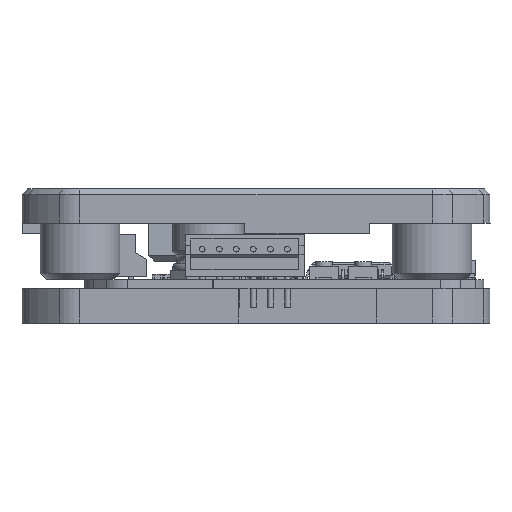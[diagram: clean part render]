
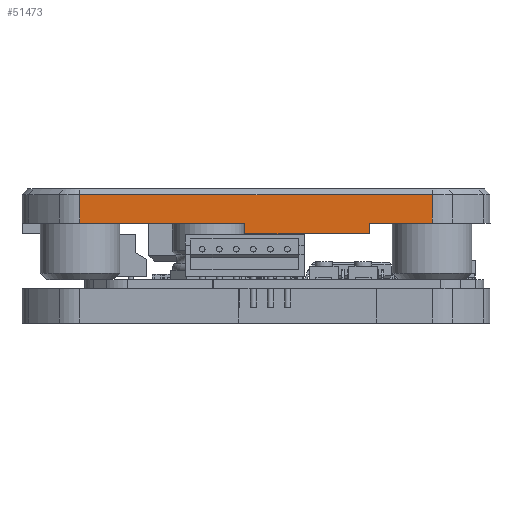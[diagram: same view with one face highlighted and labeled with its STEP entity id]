
A CAD part, left-side view. The second image highlights one B-rep face of the part: STEP entity #51473.
In plain terms, the highlighted planar face has unit normal (-1, 0, 0).
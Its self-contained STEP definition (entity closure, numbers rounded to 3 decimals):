
#7603=FACE_OUTER_BOUND('',#10592,.T.);
#10592=EDGE_LOOP('',(#46665,#46666,#46667,#46668,#46669,#46670,#46671,#46672));
#15877=LINE('',#89943,#21171);
#15885=LINE('',#89958,#21179);
#15886=LINE('',#89960,#21180);
#15890=LINE('',#89986,#21184);
#15891=LINE('',#89988,#21185);
#15909=LINE('',#90053,#21203);
#15910=LINE('',#90056,#21204);
#15911=LINE('',#90057,#21205);
#21171=VECTOR('',#70141,10.);
#21179=VECTOR('',#70153,10.);
#21180=VECTOR('',#70156,10.);
#21184=VECTOR('',#70180,10.);
#21185=VECTOR('',#70181,10.);
#21203=VECTOR('',#70243,10.);
#21204=VECTOR('',#70246,10.);
#21205=VECTOR('',#70247,10.);
#25679=VERTEX_POINT('',#89939);
#25681=VERTEX_POINT('',#89942);
#25685=VERTEX_POINT('',#89954);
#25686=VERTEX_POINT('',#89956);
#25698=VERTEX_POINT('',#89984);
#25699=VERTEX_POINT('',#89987);
#25724=VERTEX_POINT('',#90051);
#25725=VERTEX_POINT('',#90055);
#32676=EDGE_CURVE('',#25679,#25681,#15877,.T.);
#32684=EDGE_CURVE('',#25685,#25686,#15885,.T.);
#32685=EDGE_CURVE('',#25681,#25686,#15886,.T.);
#32698=EDGE_CURVE('',#25698,#25679,#15890,.T.);
#32699=EDGE_CURVE('',#25685,#25699,#15891,.T.);
#32732=EDGE_CURVE('',#25698,#25724,#15909,.T.);
#32733=EDGE_CURVE('',#25725,#25724,#15910,.T.);
#32734=EDGE_CURVE('',#25699,#25725,#15911,.T.);
#46665=ORIENTED_EDGE('',*,*,#32698,.F.);
#46666=ORIENTED_EDGE('',*,*,#32732,.T.);
#46667=ORIENTED_EDGE('',*,*,#32733,.F.);
#46668=ORIENTED_EDGE('',*,*,#32734,.F.);
#46669=ORIENTED_EDGE('',*,*,#32699,.F.);
#46670=ORIENTED_EDGE('',*,*,#32684,.T.);
#46671=ORIENTED_EDGE('',*,*,#32685,.F.);
#46672=ORIENTED_EDGE('',*,*,#32676,.F.);
#48709=PLANE('',#56427);
#51473=ADVANCED_FACE('',(#7603),#48709,.T.);
#56427=AXIS2_PLACEMENT_3D('',#90054,#70244,#70245);
#70141=DIRECTION('',(0.,0.,-1.));
#70153=DIRECTION('',(0.,0.,-1.));
#70156=DIRECTION('',(0.,1.,0.));
#70180=DIRECTION('',(0.,1.,0.));
#70181=DIRECTION('',(0.,1.,0.));
#70243=DIRECTION('',(0.,0.,1.));
#70244=DIRECTION('center_axis',(-1.,0.,0.));
#70245=DIRECTION('ref_axis',(0.,-1.,0.));
#70246=DIRECTION('',(0.,-1.,0.));
#70247=DIRECTION('',(0.,0.,1.));
#89939=CARTESIAN_POINT('',(-5.1,5.5,5.));
#89942=CARTESIAN_POINT('',(-5.1,5.5,4.04));
#89943=CARTESIAN_POINT('',(-5.1,5.5,5.));
#89954=CARTESIAN_POINT('',(-5.1,16.487,5.));
#89956=CARTESIAN_POINT('',(-5.1,16.487,4.04));
#89958=CARTESIAN_POINT('',(-5.1,16.487,5.));
#89960=CARTESIAN_POINT('',(-5.1,5.5,4.04));
#89984=CARTESIAN_POINT('',(-5.1,-0.006,5.));
#89986=CARTESIAN_POINT('',(-5.1,23.253,5.));
#89987=CARTESIAN_POINT('',(-5.1,31.006,5.));
#89988=CARTESIAN_POINT('',(-5.1,23.253,5.));
#90051=CARTESIAN_POINT('',(-5.1,-0.006,7.5));
#90053=CARTESIAN_POINT('',(-5.1,-0.006,5.));
#90054=CARTESIAN_POINT('Origin',(-5.1,31.006,5.));
#90055=CARTESIAN_POINT('',(-5.1,31.006,7.5));
#90056=CARTESIAN_POINT('',(-5.1,23.253,7.5));
#90057=CARTESIAN_POINT('',(-5.1,31.006,5.));
